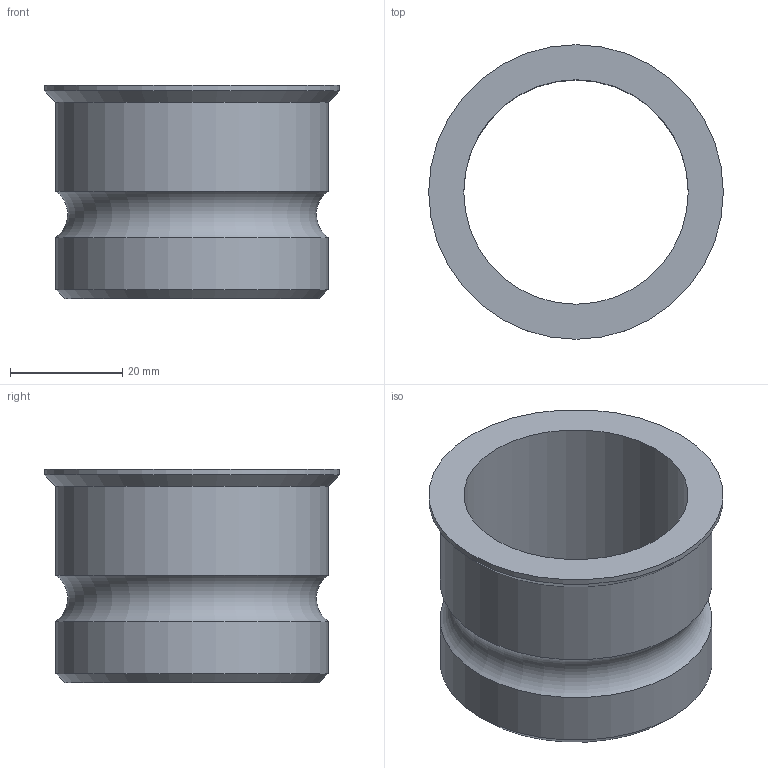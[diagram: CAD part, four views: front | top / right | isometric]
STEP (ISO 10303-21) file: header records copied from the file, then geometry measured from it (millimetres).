
FILE_DESCRIPTION(/* description */ ('STEP AP242','CAx-IF Rec.Pracs.---Representation and Presentation of Product Manufacturing Information (PMI)---4.0---2014-10-13','CAx-IF Rec.Pracs.---3D Tessellated Geometry---0.4---2014-09-14','2;1'),/* implementation_level */ '2;1');
FILE_NAME(/* name */ '64462925e763f3470c323d4e',/* time_stamp */ '2023-04-24T07:00:54+00:00',/* author */ (''),/* organization */ (''),/* preprocessor_version */ 'ST-DEVELOPER v18.102',/* originating_system */ ' ',/* authorisation */ ' ');
FILE_SCHEMA (('AP242_MANAGED_MODEL_BASED_3D_ENGINEERING_MIM_LF { 1 0 10303 442 1 1 4 }'));
Length unit declared in the file: metre
Products named in the file (1): Camlock Male Connection
Bounding box: 52.5 x 52.5 x 38 mm (x, y, z)
Volume: 21108.3 mm3; surface area: 12198.4 mm2
Topology: 1 solids, 1 shells, 9 faces, 16 edges, 9 vertices
Faces by surface type: cylinder 4, cone 2, plane 2, torus 1
Full cylindrical faces by diameter (mm): 40 x1, 48.5 x2, 52.5 x1
Entity records: 210 total; most frequent: DIRECTION 38, CARTESIAN_POINT 28, AXIS2_PLACEMENT_3D 19, ORIENTED_EDGE 18, EDGE_LOOP 18, FACE_BOUND 18, EDGE_CURVE 9, VERTEX_POINT 9
